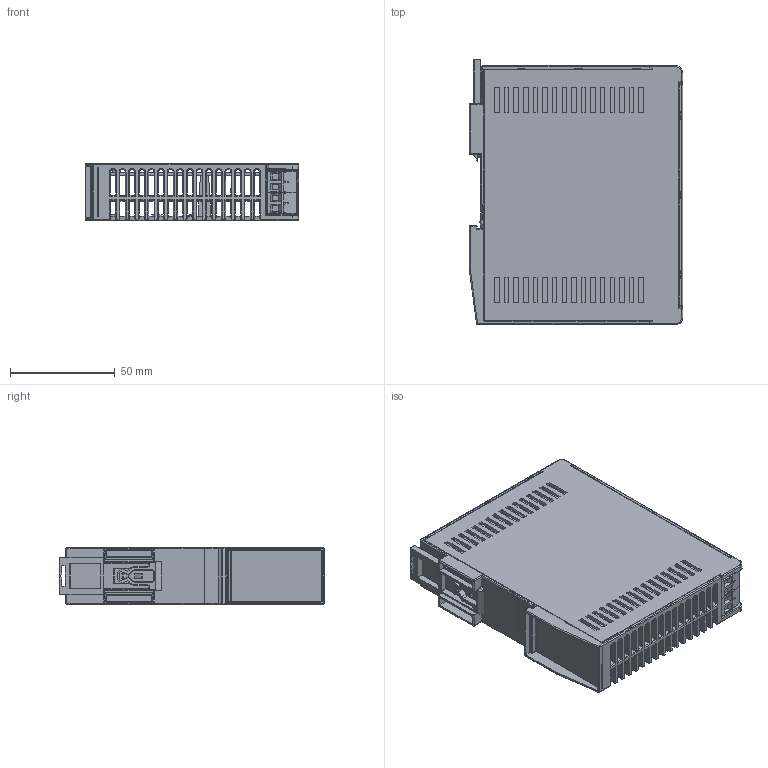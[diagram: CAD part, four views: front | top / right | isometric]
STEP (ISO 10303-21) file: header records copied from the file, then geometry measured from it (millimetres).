
FILE_DESCRIPTION((''),'2;1');
FILE_NAME('DRL-75W-ASM_ASM','2019-12-11T',('JOSH.LEE'),(''),'PRO/ENGINEER BY PARAMETRIC TECHNOLOGY CORPORATION, 2015240','PRO/ENGINEER BY PARAMETRIC TECHNOLOGY CORPORATION, 2015240','');
FILE_SCHEMA(('AUTOMOTIVE_DESIGN { 1 2 10303 214 0 1 1 1 }'));
Products named in the file (9): CHASSIS_MODIFY_20191002; DRL_75W_COVER; MB310-508M03Y; MB310-508M02Y; PWB; PWB-2; EE-PART; 347_CLIP_LONG_20190322; DRL-75W-ASM_ASM
Assembly tree (9 placements, depth 2):
  DRL-75W-ASM_ASM
    CHASSIS_MODIFY_20191002
    DRL_75W_COVER
    MB310-508M03Y
    MB310-508M02Y  x2
    PWB
    PWB-2
    EE-PART
    347_CLIP_LONG_20190322
Bounding box: 102.04 x 126.62 x 27 mm (x, y, z)
Volume: 81579.4 mm3; surface area: 104412.9 mm2
Topology: 10 solids, 13 shells, 2453 faces, 6737 edges, 4261 vertices
Faces by surface type: plane 1425, cylinder 556, cone 187, torus 140, sphere 91, bspline 54
Entity records: 95100 total; most frequent: CARTESIAN_POINT 17574, ORIENTED_EDGE 12524, DIRECTION 11522, EDGE_CURVE 6262, PRESENTATION_STYLE_ASSIGNMENT 6227, STYLED_ITEM 6226, CURVE_STYLE 6188, VECTOR 4516
